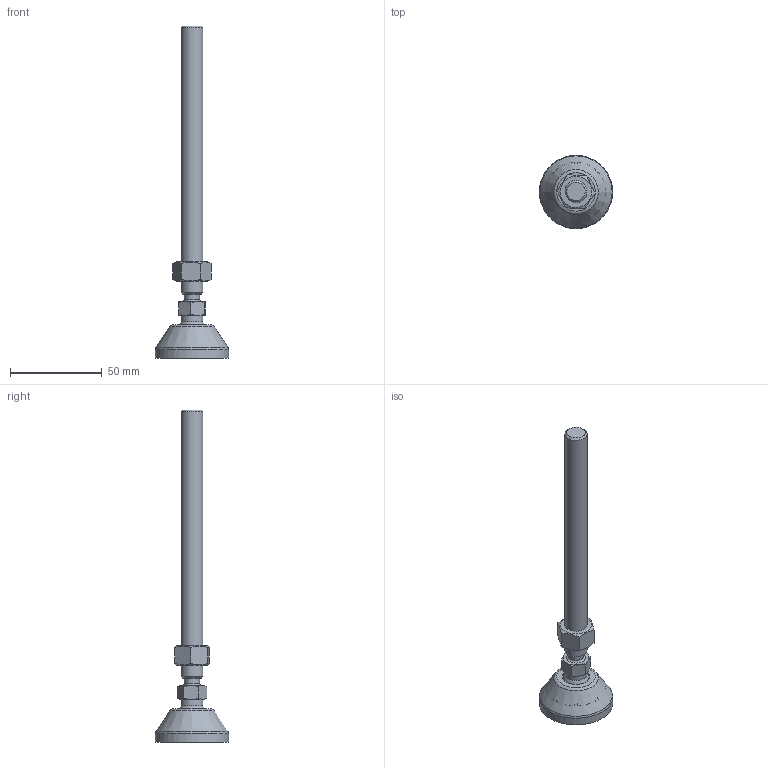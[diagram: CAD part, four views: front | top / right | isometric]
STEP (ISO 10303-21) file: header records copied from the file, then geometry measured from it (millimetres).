
FILE_DESCRIPTION(('STEP AP203'), '1');
FILE_NAME('栖闉罻', '', ('UNSPECIFIED'), ('UNSPECIFIED'), 'C3D Converter', 'C3D Toolkit', '');
FILE_SCHEMA(('CONFIG_CONTROL_DESIGN'));
Length unit declared in the file: millimetre
Products named in the file (4): A00015.1040; A00020.112150
Assembly tree (3 placements, depth 3):
  (unnamed)
    A00015.1040
    A00020.112150
      (unnamed)
Bounding box: 40 x 40 x 180.7 mm (x, y, z)
Volume: 31628.5 mm3; surface area: 14413.9 mm2
Topology: 3 solids, 3 shells, 149 faces, 405 edges, 267 vertices
Faces by surface type: plane 79, cylinder 26, cone 21, torus 21, sphere 2
Full cylindrical faces by diameter (mm): 8.3 x1, 10.647 x1, 12 x2, 14.3 x1, 15 x2, 15.5 x1, 32 x1, 40 x1
Entity records: 8517 total; most frequent: CARTESIAN_POINT 3489, ORIENTED_EDGE 756, DIRECTION 750, EDGE_CURVE 378, AXIS2_PLACEMENT_3D 305, VERTEX_POINT 266, EDGE_LOOP 182, FACE_BOUND 159
